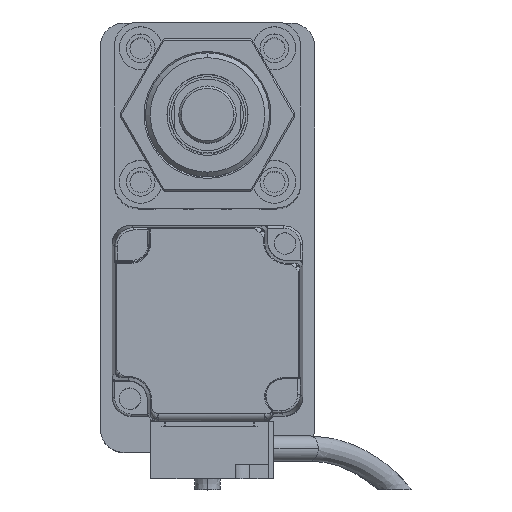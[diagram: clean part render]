
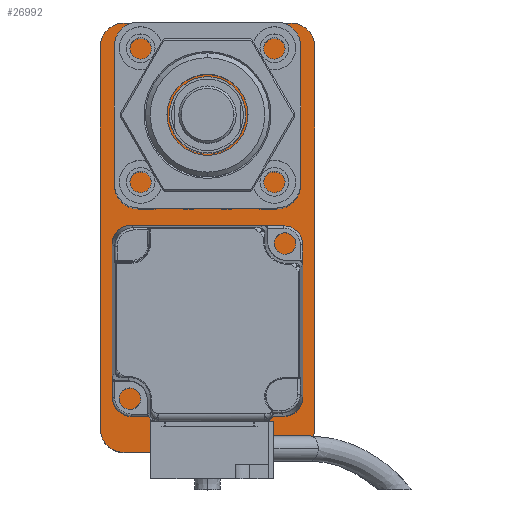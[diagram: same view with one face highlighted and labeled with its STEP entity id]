
A CAD part, top view. The second image highlights one B-rep face of the part: STEP entity #26992.
In plain terms, the highlighted planar face has unit normal (0, 0, 1).
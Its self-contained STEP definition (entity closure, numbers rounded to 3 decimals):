
#84 = EDGE_CURVE ( 'NONE', #9579, #13062, #20492, .T. ) ;
#1886 = EDGE_CURVE ( 'NONE', #13062, #4469, #7430, .T. ) ;
#2168 = AXIS2_PLACEMENT_3D ( 'NONE', #10469, #16990, #18975 ) ;
#2271 = VERTEX_POINT ( 'NONE', #19023 ) ;
#2332 = CARTESIAN_POINT ( 'NONE',  ( -22.5, -40., 10. ) ) ;
#2581 = CARTESIAN_POINT ( 'NONE',  ( 22.5, 45., 10. ) ) ;
#3442 = VECTOR ( 'NONE', #27102, 1000. ) ;
#3960 = VERTEX_POINT ( 'NONE', #26949 ) ;
#4252 = ORIENTED_EDGE ( 'NONE', *, *, #27510, .T. ) ;
#4469 = VERTEX_POINT ( 'NONE', #9623 ) ;
#4589 = CARTESIAN_POINT ( 'NONE',  ( 22.5, -45., 10. ) ) ;
#5012 = VERTEX_POINT ( 'NONE', #2332 ) ;
#5076 = CARTESIAN_POINT ( 'NONE',  ( -22.5, -45., 10. ) ) ;
#5304 = VECTOR ( 'NONE', #20076, 1000. ) ;
#5343 = AXIS2_PLACEMENT_3D ( 'NONE', #25183, #7919, #5614 ) ;
#5614 = DIRECTION ( 'NONE',  ( 1., 0., 0. ) ) ;
#5752 = VECTOR ( 'NONE', #21758, 1000. ) ;
#5923 = ORIENTED_EDGE ( 'NONE', *, *, #23507, .T. ) ;
#6029 = EDGE_LOOP ( 'NONE', ( #4252, #11763, #24035, #5923, #25881, #17765, #15042, #27551 ) ) ;
#7427 = AXIS2_PLACEMENT_3D ( 'NONE', #18415, #27224, #9917 ) ;
#7430 = CIRCLE ( 'NONE', #7427, 5. ) ;
#7919 = DIRECTION ( 'NONE',  ( 0., 0., 1. ) ) ;
#8933 = CARTESIAN_POINT ( 'NONE',  ( 17.5, 40., 10. ) ) ;
#9579 = VERTEX_POINT ( 'NONE', #26944 ) ;
#9623 = CARTESIAN_POINT ( 'NONE',  ( 22.5, -40., 10. ) ) ;
#9917 = DIRECTION ( 'NONE',  ( 1., 0., 0. ) ) ;
#10469 = CARTESIAN_POINT ( 'NONE',  ( -17.5, 40., 10. ) ) ;
#10690 = EDGE_CURVE ( 'NONE', #24609, #5012, #27032, .T. ) ;
#11261 = LINE ( 'NONE', #2581, #11587 ) ;
#11587 = VECTOR ( 'NONE', #17785, 1000. ) ;
#11763 = ORIENTED_EDGE ( 'NONE', *, *, #13659, .T. ) ;
#12152 = AXIS2_PLACEMENT_3D ( 'NONE', #24826, #27272, #22972 ) ;
#12163 = CIRCLE ( 'NONE', #20146, 5. ) ;
#13062 = VERTEX_POINT ( 'NONE', #19356 ) ;
#13659 = EDGE_CURVE ( 'NONE', #2271, #18101, #12163, .T. ) ;
#15042 = ORIENTED_EDGE ( 'NONE', *, *, #84, .T. ) ;
#15241 = CIRCLE ( 'NONE', #2168, 5. ) ;
#16990 = DIRECTION ( 'NONE',  ( 0., 0., 1. ) ) ;
#17052 = LINE ( 'NONE', #4589, #5752 ) ;
#17406 = DIRECTION ( 'NONE',  ( 0., 0., 1. ) ) ;
#17765 = ORIENTED_EDGE ( 'NONE', *, *, #20096, .T. ) ;
#17785 = DIRECTION ( 'NONE',  ( -1., 0., 0. ) ) ;
#18101 = VERTEX_POINT ( 'NONE', #19176 ) ;
#18415 = CARTESIAN_POINT ( 'NONE',  ( 17.5, -40., 10. ) ) ;
#18975 = DIRECTION ( 'NONE',  ( 1., 0., 0. ) ) ;
#19023 = CARTESIAN_POINT ( 'NONE',  ( 22.5, 40., 10. ) ) ;
#19176 = CARTESIAN_POINT ( 'NONE',  ( 17.5, 45., 10. ) ) ;
#19356 = CARTESIAN_POINT ( 'NONE',  ( 17.5, -45., 10. ) ) ;
#19634 = CIRCLE ( 'NONE', #12152, 5. ) ;
#19936 = DIRECTION ( 'NONE',  ( 1., 0., 0. ) ) ;
#20076 = DIRECTION ( 'NONE',  ( 0., -1., 0. ) ) ;
#20096 = EDGE_CURVE ( 'NONE', #5012, #9579, #19634, .T. ) ;
#20146 = AXIS2_PLACEMENT_3D ( 'NONE', #8933, #17406, #19936 ) ;
#20492 = LINE ( 'NONE', #25211, #3442 ) ;
#21616 = EDGE_CURVE ( 'NONE', #18101, #3960, #11261, .T. ) ;
#21758 = DIRECTION ( 'NONE',  ( 0., 1., 0. ) ) ;
#22124 = FACE_OUTER_BOUND ( 'NONE', #6029, .T. ) ;
#22972 = DIRECTION ( 'NONE',  ( 1., 0., 0. ) ) ;
#23507 = EDGE_CURVE ( 'NONE', #3960, #24609, #15241, .T. ) ;
#24035 = ORIENTED_EDGE ( 'NONE', *, *, #21616, .T. ) ;
#24609 = VERTEX_POINT ( 'NONE', #25460 ) ;
#24826 = CARTESIAN_POINT ( 'NONE',  ( -17.5, -40., 10. ) ) ;
#25183 = CARTESIAN_POINT ( 'NONE',  ( 0., 0., 10. ) ) ;
#25211 = CARTESIAN_POINT ( 'NONE',  ( 22.5, -45., 10. ) ) ;
#25460 = CARTESIAN_POINT ( 'NONE',  ( -22.5, 40., 10. ) ) ;
#25881 = ORIENTED_EDGE ( 'NONE', *, *, #10690, .T. ) ;
#26944 = CARTESIAN_POINT ( 'NONE',  ( -17.5, -45., 10. ) ) ;
#26949 = CARTESIAN_POINT ( 'NONE',  ( -17.5, 45., 10. ) ) ;
#26992 = ADVANCED_FACE ( 'NONE', ( #22124 ), #27355, .T. ) ;
#27032 = LINE ( 'NONE', #5076, #5304 ) ;
#27102 = DIRECTION ( 'NONE',  ( 1., 0., 0. ) ) ;
#27224 = DIRECTION ( 'NONE',  ( 0., 0., 1. ) ) ;
#27272 = DIRECTION ( 'NONE',  ( 0., 0., 1. ) ) ;
#27355 = PLANE ( 'NONE',  #5343 ) ;
#27510 = EDGE_CURVE ( 'NONE', #4469, #2271, #17052, .T. ) ;
#27551 = ORIENTED_EDGE ( 'NONE', *, *, #1886, .T. ) ;
